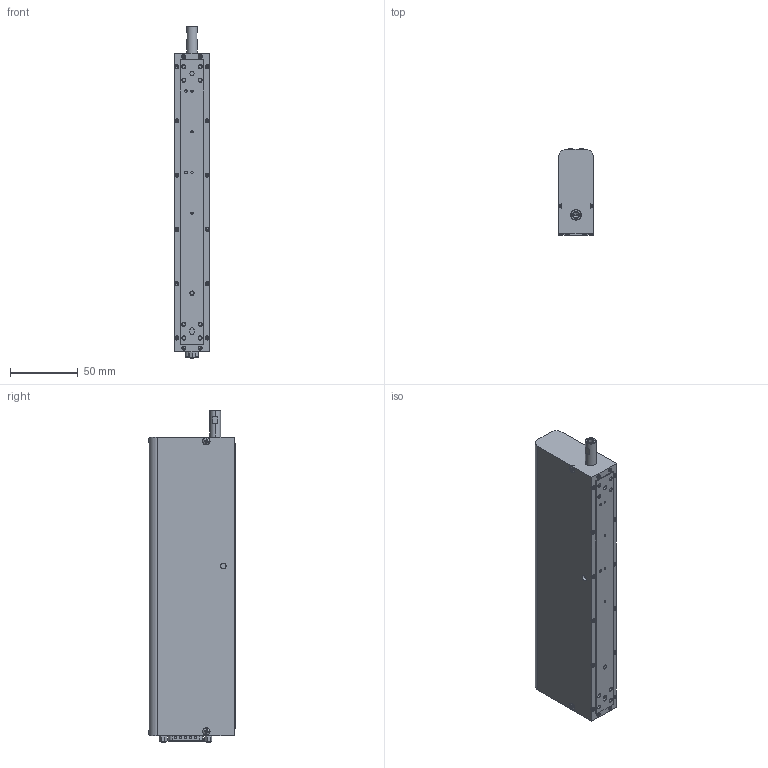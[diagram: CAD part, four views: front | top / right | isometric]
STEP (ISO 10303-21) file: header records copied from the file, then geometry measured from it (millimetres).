
FILE_DESCRIPTION (( 'STEP AP203' ), '1' );
FILE_NAME ('75.STEP', '2021-08-31T17:54:45', ( '' ), ( '' ), 'SwSTEP 2.0', 'SolidWorks 2020', '' );
FILE_SCHEMA (( 'CONFIG_CONTROL_DESIGN' ));
Products named in the file (1): 75
Bounding box: 25.86 x 64.1 x 244.76 mm (x, y, z)
Volume: 350275.4 mm3; surface area: 44457.3 mm2
Topology: 1 solids, 37 shells, 1477 faces, 3875 edges, 2493 vertices
Faces by surface type: plane 798, cylinder 437, cone 134, torus 60, bspline 40, sphere 8
Entity records: 51932 total; most frequent: CARTESIAN_POINT 15424, ORIENTED_EDGE 7698, DIRECTION 7509, EDGE_CURVE 3849, AXIS2_PLACEMENT_3D 2604, VERTEX_POINT 2493, LINE 2301, VECTOR 2301
